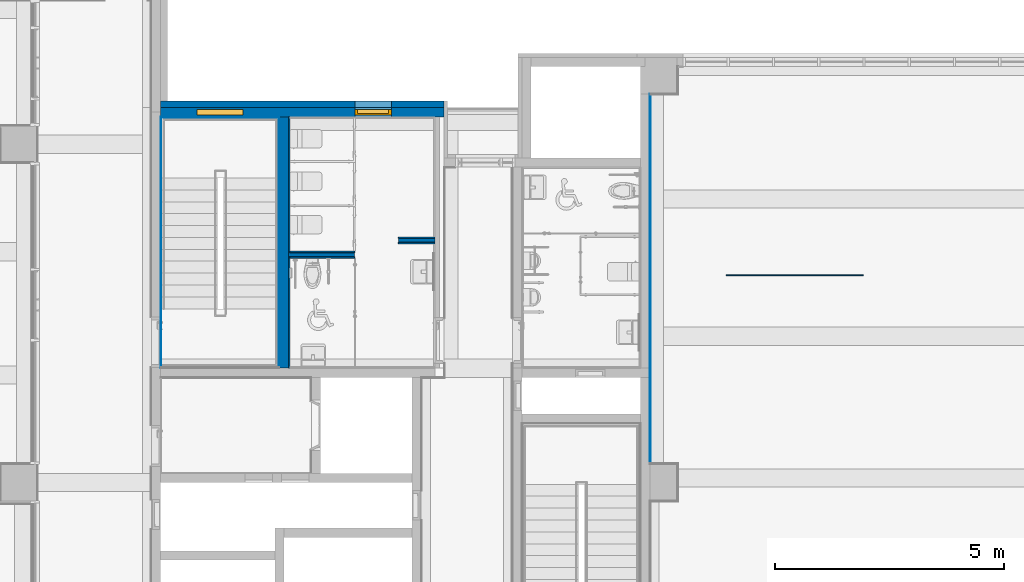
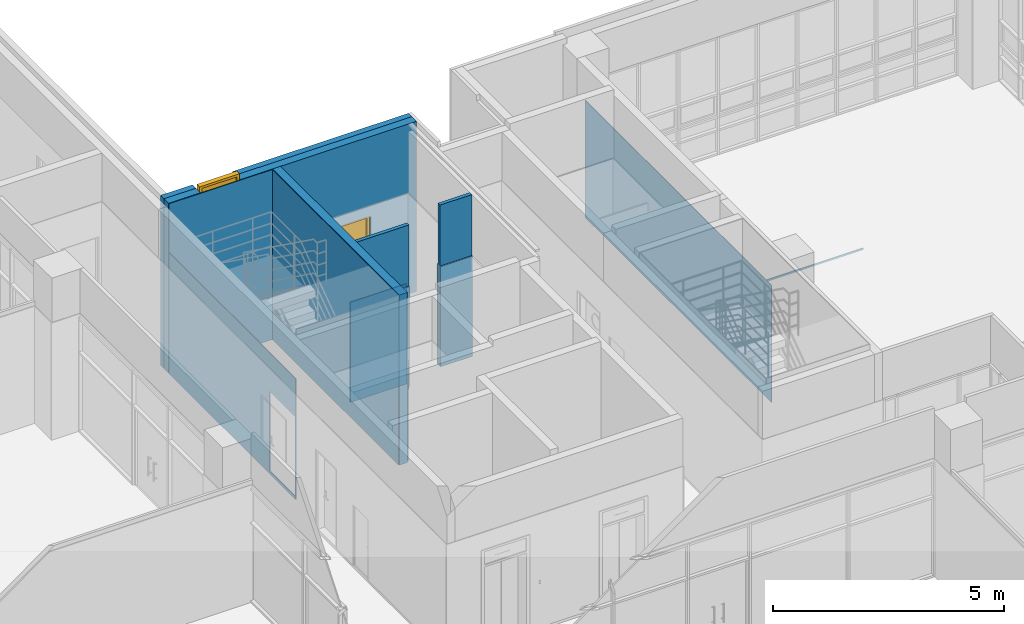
# One storey, part 57 of 74: 15 walls, 2 windows, 7 openings.
"""IFC2X3 building model written with IfcOpenShell, lengths in millimetres."""

from ifc_helpers import new_model, entity, si_unit, converted_unit, derived_unit, direction, frame, frame_2d, origin, place, context, subcontext, project, spatial, rectangle, extrude, faceted_brep, source, transform, mapped, material, material_list, layer, layer_set, layer_usage, type_object, type_shapes, element, fill, save


model = new_model("IFC2X3")

# Units and contexts
model_context = context("Model", 3, precision=0.01, world=origin(), true_north=direction((6.123031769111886e-17, 1.0)))
body_context = subcontext(model_context, "Body", "Model", "MODEL_VIEW")
ifc_project = project(units=[si_unit("LENGTHUNIT", "METRE", prefix="MILLI"), si_unit("AREAUNIT", "SQUARE_METRE"), si_unit("VOLUMEUNIT", "CUBIC_METRE"), converted_unit("PLANEANGLEUNIT", "DEGREE", entity("IfcRatioMeasure", 0.017453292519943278), si_unit("PLANEANGLEUNIT", "RADIAN"), dimensions=[0, 0, 0, 0, 0, 0, 0]), si_unit("MASSUNIT", "GRAM", prefix="KILO"), derived_unit("MASSDENSITYUNIT", [(si_unit("MASSUNIT", "GRAM", prefix="KILO"), 1), (si_unit("LENGTHUNIT", "METRE"), -3)]), derived_unit("MOMENTOFINERTIAUNIT", [(si_unit("LENGTHUNIT", "METRE"), 4)]), si_unit("TIMEUNIT", "SECOND"), si_unit("FREQUENCYUNIT", "HERTZ"), si_unit("THERMODYNAMICTEMPERATUREUNIT", "DEGREE_CELSIUS"), derived_unit("THERMALTRANSMITTANCEUNIT", [(si_unit("MASSUNIT", "GRAM", prefix="KILO"), 1), (si_unit("THERMODYNAMICTEMPERATUREUNIT", "KELVIN"), -1), (si_unit("TIMEUNIT", "SECOND"), -3)]), derived_unit("VOLUMETRICFLOWRATEUNIT", [(si_unit("LENGTHUNIT", "METRE"), 3), (si_unit("TIMEUNIT", "SECOND"), -1)]), derived_unit("MASSFLOWRATEUNIT", [(si_unit("MASSUNIT", "GRAM", prefix="KILO"), 1), (si_unit("TIMEUNIT", "SECOND"), -1)]), derived_unit("ROTATIONALFREQUENCYUNIT", [(si_unit("TIMEUNIT", "SECOND"), -1)]), si_unit("ELECTRICCURRENTUNIT", "AMPERE"), si_unit("ELECTRICVOLTAGEUNIT", "VOLT"), si_unit("POWERUNIT", "WATT"), si_unit("FORCEUNIT", "NEWTON", prefix="KILO"), si_unit("ILLUMINANCEUNIT", "LUX"), si_unit("LUMINOUSFLUXUNIT", "LUMEN"), si_unit("LUMINOUSINTENSITYUNIT", "CANDELA"), derived_unit("USERDEFINED", [(si_unit("MASSUNIT", "GRAM", prefix="KILO"), -1), (si_unit("LENGTHUNIT", "METRE"), -2), (si_unit("TIMEUNIT", "SECOND"), 3), (si_unit("LUMINOUSFLUXUNIT", "LUMEN"), 1)]), derived_unit("SOUNDPOWERUNIT", [(si_unit("MASSUNIT", "GRAM", prefix="KILO"), 1), (si_unit("LENGTHUNIT", "METRE"), 2), (si_unit("TIMEUNIT", "SECOND"), -3)]), derived_unit("SOUNDPRESSUREUNIT", [(si_unit("MASSUNIT", "GRAM", prefix="KILO"), 1), (si_unit("LENGTHUNIT", "METRE"), -1), (si_unit("TIMEUNIT", "SECOND"), -2)]), derived_unit("LINEARVELOCITYUNIT", [(si_unit("LENGTHUNIT", "METRE"), 1), (si_unit("TIMEUNIT", "SECOND"), -1)]), si_unit("PRESSUREUNIT", "PASCAL"), derived_unit("USERDEFINED", [(si_unit("LENGTHUNIT", "METRE"), -2), (si_unit("MASSUNIT", "GRAM", prefix="KILO"), 1), (si_unit("TIMEUNIT", "SECOND"), -2)]), derived_unit("LINEARFORCEUNIT", [(si_unit("MASSUNIT", "GRAM", prefix="KILO"), 1), (si_unit("LENGTHUNIT", "METRE"), 1), (si_unit("TIMEUNIT", "SECOND"), -2), (si_unit("LENGTHUNIT", "METRE"), -1)]), derived_unit("PLANARFORCEUNIT", [(si_unit("MASSUNIT", "GRAM", prefix="KILO"), 1), (si_unit("LENGTHUNIT", "METRE"), 1), (si_unit("TIMEUNIT", "SECOND"), -2), (si_unit("LENGTHUNIT", "METRE"), -2)])], contexts=[model_context])

# Site, building, storey
site_placement = place(None, frame((-14167.972527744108, -657.2125860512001, 0.0)))
site = spatial("IfcSite", under=ifc_project, at=site_placement, Name="Default", CompositionType="ELEMENT")
building_placement = place(site_placement, origin())
building = spatial("IfcBuilding", under=site, at=building_placement, Name="Sample Building", CompositionType="ELEMENT")
storey_placement = place(building_placement, frame((0.0, 0.0, 4800.0)))
storey = spatial("IfcBuildingStorey", under=building, at=storey_placement, Name="지상 2층", CompositionType="ELEMENT", Elevation=4800.000000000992)

# Wall, openings, windows
ifc_material_1 = material(Name="KBIMS-콘크리트")
ifc_layer_1 = layer(ifc_material_1, 200.0)
ifc_layer_set_1 = layer_set([ifc_layer_1], Name="기본 벽:WA111-철근콘크리트구조 벽 200mm_CW1")
ifc_layer_usage_1 = layer_usage(ifc_layer_set_1, "AXIS2", "NEGATIVE", 100.0)
wall_type_1 = type_object("IfcWallType", Name="기본 벽:WA111-철근콘크리트구조 벽 200mm_CW1", PredefinedType="STANDARD", material=ifc_layer_set_1)
wall_1_placement = place(storey_placement, frame((30267.963761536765, 28057.212307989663, -1.9340006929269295e-09)))
wall_1 = element("IfcWallStandardCase", 1, at=wall_1_placement, inside=storey, type_object=wall_type_1, material=ifc_layer_usage_1, Name="기본 벽:WA111-철근콘크리트구조 벽 200mm_CW1", ObjectType="기본 벽:WA111-철근콘크리트구조 벽 200mm_CW1", context=body_context, shape_type="SweptSolid", body=[
    extrude(rectangle(XDim=6200.0000366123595, YDim=199.99999999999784, at=frame_2d((3100.0000183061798, 0.0), x_axis=(1.0, 0.0))), origin(), (0.0, 0.0, 1.0), 4500.000000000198),
])
opening_1_placement = place(wall_1_placement, origin())
element("IfcOpeningElement", 2, at=opening_1_placement, cuts=wall_1, Name="기본 벽:WA111-철근콘크리트구조 벽 200mm_CW1", ObjectType="Opening", context=body_context, shape_type="SweptSolid", body=[
    extrude(rectangle(XDim=1600.0000000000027, YDim=999.999999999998, at=frame_2d((-2.8421709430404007e-13, 0.0), x_axis=(1.0, 0.0))), frame((1299.0853912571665, -1624.0, -400.0), z_axis=(0.0, 1.0, 0.0), x_axis=(0.0, 0.0, 1.0)), (0.0, 0.0, 1.0), 3048.0),
])
opening_2_placement = place(wall_1_placement, frame((799.0853912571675, -100.0, 3030.0)))
opening_2 = element("IfcOpeningElement", 3, at=opening_2_placement, cuts=wall_1, Name="WD812-미들창(스테인리스 스틸):WD812-미들창(스테인리스 스틸) 하부개폐 1000x1600mm:1", ObjectType="Opening", context=body_context, shape_type="SweptSolid", body=[
    extrude(rectangle(XDim=1600.0000000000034, YDim=999.9999999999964, at=frame_2d((800.0000000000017, 499.9999999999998), x_axis=(1.0, 0.0))), frame((0.0, 0.0, 0.0), z_axis=(0.0, 1.0, 0.0), x_axis=(0.0, 0.0, 1.0)), (0.0, 0.0, 1.0), 200.0),
])
opening_3_placement = place(wall_1_placement, frame((5050.008729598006, 100.0, 1200.0)))
opening_3 = element("IfcOpeningElement", 4, at=opening_3_placement, cuts=wall_1, Name="WD812-미들창(스테인리스 스틸):WD812-미들창(스테인리스 스틸) 하부개폐 800x1200mm:1", ObjectType="Opening", context=body_context, shape_type="SweptSolid", body=[
    extrude(rectangle(XDim=1200.000000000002, YDim=799.9999999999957, at=frame_2d((600.0000000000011, 399.99999999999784), x_axis=(1.0, 0.0))), frame((0.0, 0.0, 0.0), z_axis=(0.0, -1.0, 0.0), x_axis=(0.0, 0.0, 1.0)), (0.0, 0.0, 1.0), 200.0),
])
ifc_material_2 = material(Name="KBIMS-스테인리스 스틸")
ifc_material_3 = material(Name="KBIMS-유리")
ifc_material_list_1 = material_list([ifc_material_2, ifc_material_3])
ifc_material_list_2 = material_list([ifc_material_2, ifc_material_3, ifc_material_2, ifc_material_2, ifc_material_3])
window_style_1 = type_object("IfcWindowStyle", Name="WD812-미들창(스테인리스 스틸):WD812-미들창(스테인리스 스틸) 하부개폐 1000x1600mm", ConstructionType="NOTDEFINED", OperationType="NOTDEFINED", ParameterTakesPrecedence=False, Sizeable=False, material=ifc_material_list_2)
shared_shape_1 = source(origin(), body_context, "Body", "Brep", [
    faceted_brep([(60.0, 40.0, 540.0), (60.0, 160.0, 540.0), (940.0, 160.0, 540.0), (940.0, 40.0, 540.0), (0.0, 160.0, 600.0), (0.0, 40.0, 600.0), (60.0, 40.0, 600.0), (940.0, 40.0, 600.0), (1000.0, 40.0, 600.0), (1000.0, 160.0, 600.0), (940.0, 160.0, 600.0), (60.0, 160.0, 600.0), (940.0, 160.0, 60.0), (940.0, 40.0, 60.0), (1000.0, 40.0, 0.0), (1000.0, 160.0, 0.0), (60.0, 160.0, 60.0), (60.0, 40.0, 60.0), (0.0, 40.0, 0.0), (0.0, 160.0, 0.0)], [[[0, 1, 2, 3]], [[4, 5, 6, 7, 8, 9, 10, 11]], [[3, 2, 12, 13]], [[9, 8, 14, 15]], [[13, 12, 16, 17]], [[15, 14, 18, 19]], [[17, 16, 1, 0]], [[3, 13, 17, 0], [5, 18, 14, 8, 7, 6]], [[19, 18, 5, 4]], [[1, 16, 12, 2], [9, 15, 19, 4, 11, 10]]], outer=[[True], [True], [True], [True], [True], [True], [True], [False, True], [True], [False, True]]),
    faceted_brep([(900.0, 151.0, 500.0), (100.0, 151.0, 500.0), (100.0, 139.0, 500.0), (900.0, 139.0, 500.0), (900.0, 151.0, 100.0), (900.0, 139.0, 100.0), (100.0, 139.0, 100.0), (100.0, 151.0, 100.0)], [[[0, 1, 2, 3]], [[4, 5, 6, 7]], [[1, 0, 4, 7]], [[2, 1, 7, 6]], [[3, 2, 6, 5]], [[0, 3, 5, 4]]]),
    faceted_brep([(890.0, 130.0, 490.0), (890.0, 130.0, 110.0), (110.0, 130.0, 110.0), (110.0, 130.0, 490.0), (60.0, 130.0, 540.0), (60.0, 130.0, 60.0), (940.0, 130.0, 60.0), (940.0, 130.0, 540.0), (110.0, 139.0, 110.0), (110.0, 139.0, 490.0), (900.0, 139.0, 500.0), (900.0, 139.0, 100.0), (100.0, 139.0, 100.0), (100.0, 139.0, 500.0), (890.0, 139.0, 110.0), (890.0, 139.0, 490.0), (100.0, 151.0, 100.0), (100.0, 151.0, 500.0), (890.0, 151.0, 490.0), (890.0, 151.0, 110.0), (110.0, 151.0, 110.0), (110.0, 151.0, 490.0), (900.0, 151.0, 100.0), (900.0, 151.0, 500.0), (110.0, 160.0, 110.0), (110.0, 160.0, 490.0), (940.0, 160.0, 60.0), (60.0, 160.0, 60.0), (890.0, 160.0, 490.0), (60.0, 160.0, 540.0), (940.0, 160.0, 540.0), (890.0, 160.0, 110.0)], [[[0, 1, 2, 3], [4, 5, 6, 7]], [[2, 8, 9, 3]], [[10, 11, 12, 13], [9, 8, 14, 15]], [[12, 16, 17, 13]], [[18, 19, 20, 21], [17, 16, 22, 23]], [[20, 24, 25, 21]], [[26, 6, 5, 27]], [[21, 25, 28, 18]], [[13, 17, 23, 10]], [[3, 9, 15, 0]], [[29, 4, 7, 30]], [[18, 28, 31, 19]], [[10, 23, 22, 11]], [[0, 15, 14, 1]], [[30, 7, 6, 26]], [[19, 31, 24, 20]], [[11, 22, 16, 12]], [[1, 14, 8, 2]], [[27, 5, 4, 29]], [[25, 24, 31, 28], [30, 26, 27, 29]]], outer=[[False, True], [True], [True, False], [True], [False, True], [True], [True], [True], [True], [True], [True], [True], [True], [True], [True], [True], [True], [True], [True], [False, True]]),
    faceted_brep([(60.0, 160.0, 600.0), (60.0, 40.0, 600.0), (0.0, 40.0, 600.0), (0.0, 160.0, 600.0), (60.0, 40.0, 1540.0), (60.0, 160.0, 1540.0), (940.0, 160.0, 1540.0), (940.0, 40.0, 1540.0), (0.0, 160.0, 1600.0), (0.0, 40.0, 1600.0), (1000.0, 40.0, 1600.0), (1000.0, 160.0, 1600.0), (940.0, 160.0, 600.0), (940.0, 40.0, 600.0), (1000.0, 40.0, 600.0), (1000.0, 160.0, 600.0)], [[[0, 1, 2, 3]], [[4, 5, 6, 7]], [[8, 9, 10, 11]], [[7, 6, 12, 13]], [[11, 10, 14, 15]], [[12, 15, 14, 13]], [[1, 0, 5, 4]], [[2, 1, 4, 7, 13, 14, 10, 9]], [[3, 2, 9, 8]], [[0, 3, 8, 11, 15, 12, 6, 5]]]),
    faceted_brep([(940.0, 106.0, 1540.0), (60.0, 106.0, 1540.0), (60.0, 94.0, 1540.0), (940.0, 94.0, 1540.0), (940.0, 106.0, 600.0), (940.0, 94.0, 600.0), (60.0, 94.0, 600.0), (60.0, 106.0, 600.0)], [[[0, 1, 2, 3]], [[4, 5, 6, 7]], [[1, 0, 4, 7]], [[2, 1, 7, 6]], [[3, 2, 6, 5]], [[0, 3, 5, 4]]]),
])
type_shapes(window_style_1, [shared_shape_1])
window_1_placement = place(opening_2_placement, frame((0.0, 0.0, 1.9335857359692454e-09)))
window_1 = element("IfcWindow", 5, at=window_1_placement, inside=storey, type_object=window_style_1, material=ifc_material_list_1, Name="WD812-미들창(스테인리스 스틸):WD812-미들창(스테인리스 스틸) 하부개폐 1000x1600mm", ObjectType="WD812-미들창(스테인리스 스틸):WD812-미들창(스테인리스 스틸) 하부개폐 1000x1600mm", OverallHeight=1600.0000000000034, OverallWidth=999.999999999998, context=body_context, shape_type="MappedRepresentation", body=[
    mapped(shared_shape_1, transform((0.0, 0.0, 0.0), scale=1.0)),
])
fill(opening_2, window_1)
ifc_material_list_3 = material_list([ifc_material_2, ifc_material_3])
ifc_material_list_4 = material_list([ifc_material_2, ifc_material_3, ifc_material_2, ifc_material_2, ifc_material_3])
window_style_2 = type_object("IfcWindowStyle", Name="WD812-미들창(스테인리스 스틸):WD812-미들창(스테인리스 스틸) 하부개폐 800x1200mm", ConstructionType="NOTDEFINED", OperationType="NOTDEFINED", ParameterTakesPrecedence=False, Sizeable=False, material=ifc_material_list_4)
shared_shape_2 = source(origin(), body_context, "Body", "Brep", [
    faceted_brep([(60.0, 40.0, 540.0), (60.0, 160.0, 540.0), (740.0, 160.0, 540.0), (740.0, 40.0, 540.0), (0.0, 160.0, 600.0), (0.0, 40.0, 600.0), (60.0, 40.0, 600.0), (740.0, 40.0, 600.0), (800.0, 40.0, 600.0), (800.0, 160.0, 600.0), (740.0, 160.0, 600.0), (60.0, 160.0, 600.0), (740.0, 160.0, 60.0), (740.0, 40.0, 60.0), (800.0, 40.0, 0.0), (800.0, 160.0, 0.0), (60.0, 160.0, 60.0), (60.0, 40.0, 60.0), (0.0, 40.0, 0.0), (0.0, 160.0, 0.0)], [[[0, 1, 2, 3]], [[4, 5, 6, 7, 8, 9, 10, 11]], [[3, 2, 12, 13]], [[9, 8, 14, 15]], [[13, 12, 16, 17]], [[15, 14, 18, 19]], [[17, 16, 1, 0]], [[3, 13, 17, 0], [5, 18, 14, 8, 7, 6]], [[19, 18, 5, 4]], [[1, 16, 12, 2], [9, 15, 19, 4, 11, 10]]], outer=[[True], [True], [True], [True], [True], [True], [True], [False, True], [True], [False, True]]),
    faceted_brep([(700.0, 151.0, 500.0), (100.0, 151.0, 500.0), (100.0, 139.0, 500.0), (700.0, 139.0, 500.0), (700.0, 151.0, 100.0), (700.0, 139.0, 100.0), (100.0, 139.0, 100.0), (100.0, 151.0, 100.0)], [[[0, 1, 2, 3]], [[4, 5, 6, 7]], [[1, 0, 4, 7]], [[2, 1, 7, 6]], [[3, 2, 6, 5]], [[0, 3, 5, 4]]]),
    faceted_brep([(690.0, 130.0, 490.0), (690.0, 130.0, 110.0), (110.0, 130.0, 110.0), (110.0, 130.0, 490.0), (60.0, 130.0, 540.0), (60.0, 130.0, 60.0), (740.0, 130.0, 60.0), (740.0, 130.0, 540.0), (110.0, 139.0, 110.0), (110.0, 139.0, 490.0), (700.0, 139.0, 500.0), (700.0, 139.0, 100.0), (100.0, 139.0, 100.0), (100.0, 139.0, 500.0), (690.0, 139.0, 110.0), (690.0, 139.0, 490.0), (100.0, 151.0, 100.0), (100.0, 151.0, 500.0), (690.0, 151.0, 490.0), (690.0, 151.0, 110.0), (110.0, 151.0, 110.0), (110.0, 151.0, 490.0), (700.0, 151.0, 100.0), (700.0, 151.0, 500.0), (110.0, 160.0, 110.0), (110.0, 160.0, 490.0), (740.0, 160.0, 60.0), (60.0, 160.0, 60.0), (690.0, 160.0, 490.0), (60.0, 160.0, 540.0), (740.0, 160.0, 540.0), (690.0, 160.0, 110.0)], [[[0, 1, 2, 3], [4, 5, 6, 7]], [[2, 8, 9, 3]], [[10, 11, 12, 13], [9, 8, 14, 15]], [[12, 16, 17, 13]], [[18, 19, 20, 21], [17, 16, 22, 23]], [[20, 24, 25, 21]], [[26, 6, 5, 27]], [[21, 25, 28, 18]], [[13, 17, 23, 10]], [[3, 9, 15, 0]], [[29, 4, 7, 30]], [[18, 28, 31, 19]], [[10, 23, 22, 11]], [[0, 15, 14, 1]], [[30, 7, 6, 26]], [[19, 31, 24, 20]], [[11, 22, 16, 12]], [[1, 14, 8, 2]], [[27, 5, 4, 29]], [[25, 24, 31, 28], [30, 26, 27, 29]]], outer=[[False, True], [True], [True, False], [True], [False, True], [True], [True], [True], [True], [True], [True], [True], [True], [True], [True], [True], [True], [True], [True], [False, True]]),
    faceted_brep([(60.0, 160.0, 600.0), (60.0, 40.0, 600.0), (0.0, 40.0, 600.0), (0.0, 160.0, 600.0), (60.0, 40.0, 1140.0), (60.0, 160.0, 1140.0), (740.0, 160.0, 1140.0), (740.0, 40.0, 1140.0), (0.0, 160.0, 1200.0), (0.0, 40.0, 1200.0), (800.0, 40.0, 1200.0), (800.0, 160.0, 1200.0), (740.0, 160.0, 600.0), (740.0, 40.0, 600.0), (800.0, 40.0, 600.0), (800.0, 160.0, 600.0)], [[[0, 1, 2, 3]], [[4, 5, 6, 7]], [[8, 9, 10, 11]], [[7, 6, 12, 13]], [[11, 10, 14, 15]], [[12, 15, 14, 13]], [[1, 0, 5, 4]], [[2, 1, 4, 7, 13, 14, 10, 9]], [[3, 2, 9, 8]], [[0, 3, 8, 11, 15, 12, 6, 5]]]),
    faceted_brep([(740.0, 106.0, 1140.0), (60.0, 106.0, 1140.0), (60.0, 94.0, 1140.0), (740.0, 94.0, 1140.0), (740.0, 106.0, 600.0), (740.0, 94.0, 600.0), (60.0, 94.0, 600.0), (60.0, 106.0, 600.0)], [[[0, 1, 2, 3]], [[4, 5, 6, 7]], [[1, 0, 4, 7]], [[2, 1, 7, 6]], [[3, 2, 6, 5]], [[0, 3, 5, 4]]]),
])
type_shapes(window_style_2, [shared_shape_2])
window_2_placement = place(opening_3_placement, frame((0.0, 0.0, 1.9335857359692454e-09), z_axis=(0.0, 0.0, 1.0), x_axis=(-1.0, 0.0, 0.0)))
window_2 = element("IfcWindow", 6, at=window_2_placement, inside=storey, type_object=window_style_2, material=ifc_material_list_3, Name="WD812-미들창(스테인리스 스틸):WD812-미들창(스테인리스 스틸) 하부개폐 800x1200mm", ObjectType="WD812-미들창(스테인리스 스틸):WD812-미들창(스테인리스 스틸) 하부개폐 800x1200mm", OverallHeight=1200.0000000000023, OverallWidth=799.9999999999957, context=body_context, shape_type="MappedRepresentation", body=[
    mapped(shared_shape_2, transform((0.0, 0.0, 0.0), scale=1.0)),
])
fill(opening_3, window_2)

# Wall
ifc_layer_usage_2 = layer_usage(ifc_layer_set_1, "AXIS2", "NEGATIVE", 100.0)
wall_2_placement = place(storey_placement, frame((32967.97249113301, 27957.212307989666, -1.9340006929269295e-09), z_axis=(0.0, 0.0, 1.0), x_axis=(0.0, -1.0, 0.0)))
element("IfcWallStandardCase", 7, at=wall_2_placement, inside=storey, type_object=wall_type_1, material=ifc_layer_usage_2, Name="기본 벽:WA111-철근콘크리트구조 벽 200mm_CW1", ObjectType="기본 벽:WA111-철근콘크리트구조 벽 200mm_CW1", context=body_context, shape_type="SweptSolid", body=[
    extrude(rectangle(XDim=5499.999996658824, YDim=199.99999999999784, at=frame_2d((2749.999998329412, -4.263256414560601e-14), x_axis=(-1.0, 0.0))), origin(), (0.0, 0.0, 1.0), 4500.000000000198),
])

# Wall, openings
ifc_material_4 = material(Name="WA240-ALC블록벽")
ifc_layer_2 = layer(ifc_material_4, 35.0)
ifc_material_5 = material(Name="WA795-(STEEL)BRACKET")
ifc_layer_3 = layer(ifc_material_5, 65.0)
ifc_material_6 = material(Name="WA821-압출스티로폼 벽 (본드붙임, 비중0.03) 50mm")
ifc_layer_4 = layer(ifc_material_6, 50.0)
ifc_layer_set_2 = layer_set([ifc_layer_2, ifc_layer_3, ifc_layer_4], Name="기본 벽:A2-22-02A-압출스티로폼, BRACKET(STEEL), ALC블록 (150mm)")
ifc_layer_usage_3 = layer_usage(ifc_layer_set_2, "AXIS2", "POSITIVE", -75.0)
wall_type_2 = type_object("IfcWallType", Name="기본 벽:A2-22-02A-압출스티로폼, BRACKET(STEEL), ALC블록 (150mm)", PredefinedType="STANDARD", material=ifc_layer_set_2)
wall_3_placement = place(storey_placement, frame((36467.963798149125, 28232.212307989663, -1.9340006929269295e-09), z_axis=(0.0, 0.0, 1.0), x_axis=(-1.0, 0.0, 0.0)))
wall_3 = element("IfcWallStandardCase", 8, at=wall_3_placement, inside=storey, type_object=wall_type_2, material=ifc_layer_usage_3, Name="기본 벽:A2-22-02A-압출스티로폼, BRACKET(STEEL), ALC블록 (150mm)", ObjectType="기본 벽:A2-22-02A-압출스티로폼, BRACKET(STEEL), ALC블록 (150mm)", context=body_context, shape_type="SweptSolid", body=[
    extrude(rectangle(XDim=6200.000036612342, YDim=150.00000000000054, at=frame_2d((3100.000018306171, 0.0), x_axis=(1.0, 0.0))), origin(), (0.0, 0.0, 1.0), 4500.000000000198),
])
opening_4_placement = place(wall_3_placement, origin())
element("IfcOpeningElement", 9, at=opening_4_placement, cuts=wall_3, Name="기본 벽:A2-22-02A-압출스티로폼, BRACKET(STEEL), ALC블록 (150mm)", ObjectType="Opening", context=body_context, shape_type="SweptSolid", body=[
    extrude(rectangle(XDim=1600.0000000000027, YDim=999.999999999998, at=frame_2d((0.0, 2.8421709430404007e-13), x_axis=(0.0, 1.0))), frame((4900.914645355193, -1249.0, -400.0), z_axis=(0.0, 1.0, 0.0), x_axis=(-1.0, 0.0, 0.0)), (0.0, 0.0, 1.0), 3048.0),
])
opening_5_placement = place(wall_3_placement, origin())
element("IfcOpeningElement", 10, at=opening_5_placement, cuts=wall_3, Name="기본 벽:A2-22-02A-압출스티로폼, BRACKET(STEEL), ALC블록 (150mm)", ObjectType="Opening", context=body_context, shape_type="SweptSolid", body=[
    extrude(rectangle(XDim=1600.0000000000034, YDim=999.999999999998, at=frame_2d((0.0, 5.684341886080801e-13), x_axis=(0.0, 1.0))), frame((4900.914645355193, -1249.0, 3830.0), z_axis=(0.0, 1.0, 0.0), x_axis=(-1.0, 0.0, 0.0)), (0.0, 0.0, 1.0), 3048.0),
])
opening_6_placement = place(wall_3_placement, origin())
element("IfcOpeningElement", 11, at=opening_6_placement, cuts=wall_3, Name="기본 벽:A2-22-02A-압출스티로폼, BRACKET(STEEL), ALC블록 (150mm)", ObjectType="Opening", context=body_context, shape_type="SweptSolid", body=[
    extrude(rectangle(XDim=1200.0000000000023, YDim=799.9999999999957, at=frame_2d((0.0, -2.1600499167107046e-12), x_axis=(1.0, 0.0))), frame((1549.991307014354, -1449.0, 1800.0), z_axis=(0.0, 1.0, 0.0), x_axis=(0.0, 0.0, 1.0)), (0.0, 0.0, 1.0), 3048.0),
])

# Walls
ifc_material_7 = material(Name="KBIMS-시멘트 벽돌")
ifc_layer_5 = layer(ifc_material_7, 90.0)
ifc_layer_set_3 = layer_set([ifc_layer_5], Name="기본 벽:WA211-시멘트벽돌(일반) 벽 (0.5B) 90mm")
ifc_layer_usage_4 = layer_usage(ifc_layer_set_3, "AXIS2", "NEGATIVE", 45.0)
wall_type_3 = type_object("IfcWallType", Name="기본 벽:WA211-시멘트벽돌(일반) 벽 (0.5B) 90mm", PredefinedType="STANDARD", material=ifc_layer_set_3)
wall_4_placement = place(storey_placement, frame((33067.972491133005, 24941.74389776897, -50.0)))
element("IfcWallStandardCase", 12, at=wall_4_placement, inside=storey, type_object=wall_type_3, material=ifc_layer_usage_4, Name="기본 벽:WA211-시멘트벽돌(일반) 벽 (0.5B) 90mm", ObjectType="기본 벽:WA211-시멘트벽돌(일반) 벽 (0.5B) 90mm", context=body_context, shape_type="SweptSolid", body=[
    extrude(rectangle(XDim=1444.991263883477, YDim=90.0000000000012, at=frame_2d((722.4956319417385, -2.3234747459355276e-12), x_axis=(-1.0, 0.0))), origin(), (0.0, 0.0, 1.0), 4350.000000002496),
])
ifc_layer_usage_5 = layer_usage(ifc_layer_set_3, "AXIS2", "NEGATIVE", 45.0)
wall_5_placement = place(storey_placement, frame((35467.9637981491, 25252.21230798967, 40.0)))
element("IfcWallStandardCase", 13, at=wall_5_placement, inside=storey, type_object=wall_type_3, material=ifc_layer_usage_5, Name="기본 벽:WA211-시멘트벽돌(일반) 벽 (0.5B) 90mm", ObjectType="기본 벽:WA211-시멘트벽돌(일반) 벽 (0.5B) 90mm", context=body_context, shape_type="SweptSolid", body=[
    extrude(rectangle(XDim=800.0000000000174, YDim=90.0000000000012, at=frame_2d((400.0000000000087, -2.8919089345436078e-12), x_axis=(-1.0, 0.0))), origin(), (0.0, 0.0, 1.0), 4260.000000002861),
])
ifc_material_8 = material(Name="KBIMS-목재 걸레받이 (라왕, 바니쉬)")
ifc_layer_6 = layer(ifc_material_8, 24.0)
ifc_layer_set_4 = layer_set([ifc_layer_6], Name="기본 벽:WA921-목재 걸레받이 (H45*24mm, 라왕, 바니쉬)")
ifc_layer_usage_6 = layer_usage(ifc_layer_set_4, "AXIS2", "NEGATIVE", 12.0)
wall_type_4 = type_object("IfcWallType", Name="기본 벽:WA921-목재 걸레받이 (H45*24mm, 라왕, 바니쉬)", PredefinedType="STANDARD", material=ifc_layer_set_4)
wall_6_placement = place(storey_placement, frame((42641.01828586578, 24490.95405684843, 0.0)))
element("IfcWallStandardCase", 14, at=wall_6_placement, inside=storey, type_object=wall_type_4, material=ifc_layer_usage_6, Name="기본 벽:WA921-목재 걸레받이 (H45*24mm, 라왕, 바니쉬)", ObjectType="기본 벽:WA921-목재 걸레받이 (H45*24mm, 라왕, 바니쉬)", context=body_context, shape_type="SweptSolid", body=[
    extrude(rectangle(XDim=3000.0000000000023, YDim=23.999999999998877, at=frame_2d((1500.0000000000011, 2.568611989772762e-12), x_axis=(-1.0, 0.0))), origin(), (0.0, 0.0, 1.0), 45.0000000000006),
])
ifc_material_9 = material(Name="WA611-수성페인트 (내부) 벽 (3회)")
ifc_layer_7 = layer(ifc_material_9, 1.0)
ifc_material_10 = material(Name="WA551-시멘트모르타르 (내부) 벽 18mm")
ifc_layer_8 = layer(ifc_material_10, 16.0)
ifc_material_11 = material(Name="WA555-콘크리트면정리 벽 (내부)")
ifc_layer_9 = layer(ifc_material_11, 1.0)
ifc_layer_set_5 = layer_set([ifc_layer_7, ifc_layer_8, ifc_layer_9], Name="기본 벽:A1-32-06A-콘크리트면정리, 시멘트모르타르(미장용), 수성페인트(내부) (18mm)")
ifc_layer_usage_7 = layer_usage(ifc_layer_set_5, "AXIS2", "POSITIVE", -9.000000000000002)
wall_type_5 = type_object("IfcWallType", Name="기본 벽:A1-32-06A-콘크리트면정리, 시멘트모르타르(미장용), 수성페인트(내부) (18mm)", PredefinedType="STANDARD", material=ifc_layer_set_5)
wall_7_placement = place(storey_placement, frame((30267.963761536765, 27948.212307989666, 0.0)))
element("IfcWallStandardCase", 15, at=wall_7_placement, inside=storey, type_object=wall_type_5, material=ifc_layer_usage_7, Name="기본 벽:A1-32-06A-콘크리트면정리, 시멘트모르타르(미장용), 수성페인트(내부) (18mm)", ObjectType="기본 벽:A1-32-06A-콘크리트면정리, 시멘트모르타르(미장용), 수성페인트(내부) (18mm)", context=body_context, shape_type="SweptSolid", body=[
    extrude(rectangle(XDim=2582.008729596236, YDim=18.00000000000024, at=frame_2d((1291.004364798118, -2.1662671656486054e-12), x_axis=(-1.0, 0.0))), origin(), (0.0, 0.0, 1.0), 4500.000000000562),
])

# Wall, opening
ifc_layer_usage_8 = layer_usage(ifc_layer_set_5, "AXIS2", "POSITIVE", -9.000000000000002)
wall_8_placement = place(storey_placement, frame((30276.963761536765, 22457.21231133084, 0.0), z_axis=(0.0, 0.0, 1.0), x_axis=(0.0, 1.0, 0.0)))
wall_8 = element("IfcWallStandardCase", 16, at=wall_8_placement, inside=storey, type_object=wall_type_5, material=ifc_layer_usage_8, Name="기본 벽:A1-32-06A-콘크리트면정리, 시멘트모르타르(미장용), 수성페인트(내부) (18mm)", ObjectType="기본 벽:A1-32-06A-콘크리트면정리, 시멘트모르타르(미장용), 수성페인트(내부) (18mm)", context=body_context, shape_type="SweptSolid", body=[
    extrude(rectangle(XDim=5481.999996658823, YDim=18.00000000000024, at=frame_2d((2740.9999983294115, -2.1662671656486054e-12), x_axis=(-1.0, 0.0))), origin(), (0.0, 0.0, 1.0), 3200.0),
])
opening_7_placement = place(wall_8_placement, origin())
element("IfcOpeningElement", 17, at=opening_7_placement, cuts=wall_8, Name="기본 벽:A1-32-06A-콘크리트면정리, 시멘트모르타르(미장용), 수성페인트(내부) (18mm)", ObjectType="Opening", context=body_context, shape_type="SweptSolid", body=[
    extrude(rectangle(XDim=2099.9999999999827, YDim=1100.0000000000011, at=frame_2d((-5.684341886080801e-13, 0.0), x_axis=(1.0, 0.0))), frame((569.9653164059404, -1315.0, 1130.0), z_axis=(0.0, 1.0, 0.0), x_axis=(0.0, 0.0, 1.0)), (0.0, 0.0, 1.0), 3048.0),
])

# Walls
ifc_layer_usage_9 = layer_usage(ifc_layer_set_5, "AXIS2", "POSITIVE", -9.000000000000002)
wall_9_placement = place(storey_placement, frame((32858.972491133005, 27957.212307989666, 0.0), z_axis=(0.0, 0.0, 1.0), x_axis=(0.0, -1.0, 0.0)))
element("IfcWallStandardCase", 18, at=wall_9_placement, inside=storey, type_object=wall_type_5, material=ifc_layer_usage_9, Name="기본 벽:A1-32-06A-콘크리트면정리, 시멘트모르타르(미장용), 수성페인트(내부) (18mm)", ObjectType="기본 벽:A1-32-06A-콘크리트면정리, 시멘트모르타르(미장용), 수성페인트(내부) (18mm)", context=body_context, shape_type="SweptSolid", body=[
    extrude(rectangle(XDim=5481.999996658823, YDim=18.00000000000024, at=frame_2d((2740.9999983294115, -2.1662671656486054e-12), x_axis=(-1.0, 0.0))), origin(), (0.0, 0.0, 1.0), 4500.000000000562),
])
ifc_layer_usage_10 = layer_usage(ifc_layer_set_5, "AXIS2", "POSITIVE", -9.000000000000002)
wall_10_placement = place(storey_placement, frame((40976.96379814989, 20375.212307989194, 80.0), z_axis=(0.0, 0.0, 1.0), x_axis=(0.0, 1.0, 0.0)))
element("IfcWallStandardCase", 19, at=wall_10_placement, inside=storey, type_object=wall_type_5, material=ifc_layer_usage_10, Name="기본 벽:A1-32-06A-콘크리트면정리, 시멘트모르타르(미장용), 수성페인트(내부) (18mm)", ObjectType="기본 벽:A1-32-06A-콘크리트면정리, 시멘트모르타르(미장용), 수성페인트(내부) (18mm)", context=body_context, shape_type="SweptSolid", body=[
    extrude(rectangle(XDim=8082.000000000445, YDim=18.00000000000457, at=frame_2d((4041.0000000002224, -1.318944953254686e-12), x_axis=(-1.0, 0.0))), origin(), (0.0, 0.0, 1.0), 3100.0000000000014),
])
ifc_material_12 = material(Name="WA352-도기질타일 벽 200x200")
ifc_layer_10 = layer(ifc_material_12, 8.0)
ifc_material_13 = material(Name="WA551-시멘트모르타르 (내부) 벽 22mm")
ifc_layer_11 = layer(ifc_material_13, 22.0)
ifc_layer_set_6 = layer_set([ifc_layer_10, ifc_layer_11], Name="기본 벽:A1-33-01B-시멘트 모르타르, 도기질타일 (30mm)")
ifc_layer_usage_11 = layer_usage(ifc_layer_set_6, "AXIS2", "NEGATIVE", 15.0)
wall_type_6 = type_object("IfcWallType", Name="기본 벽:A1-33-01B-시멘트 모르타르, 도기질타일 (30mm)", PredefinedType="STANDARD", material=ifc_layer_set_6)
wall_11_placement = place(storey_placement, frame((33082.98122724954, 22457.212311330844, 40.0), z_axis=(0.0, 0.0, 1.0), x_axis=(0.0, 1.0, 0.0)))
element("IfcWallStandardCase", 20, at=wall_11_placement, inside=storey, type_object=wall_type_6, material=ifc_layer_usage_11, Name="기본 벽:A1-33-01B-시멘트 모르타르, 도기질타일 (30mm)", ObjectType="기본 벽:A1-33-01B-시멘트 모르타르, 도기질타일 (30mm)", context=body_context, shape_type="SweptSolid", body=[
    extrude(rectangle(XDim=5499.999996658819, YDim=30.000000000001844, at=frame_2d((2749.9999983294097, -2.495781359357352e-13), x_axis=(-1.0, 0.0))), origin(), (0.0, 0.0, 1.0), 2649.9999999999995),
])
ifc_layer_usage_12 = layer_usage(ifc_layer_set_6, "AXIS2", "NEGATIVE", 15.0)
wall_12_placement = place(storey_placement, frame((33097.98122724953, 24881.743897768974, 40.0)))
element("IfcWallStandardCase", 21, at=wall_12_placement, inside=storey, type_object=wall_type_6, material=ifc_layer_usage_12, Name="기본 벽:A1-33-01B-시멘트 모르타르, 도기질타일 (30mm)", ObjectType="기본 벽:A1-33-01B-시멘트 모르타르, 도기질타일 (30mm)", context=body_context, shape_type="SweptSolid", body=[
    extrude(rectangle(XDim=1414.9825277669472, YDim=30.000000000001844, at=frame_2d((707.4912638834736, -8.970602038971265e-14), x_axis=(-1.0, 0.0))), origin(), (0.0, 0.0, 1.0), 2649.9999999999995),
])
ifc_layer_usage_13 = layer_usage(ifc_layer_set_6, "AXIS2", "POSITIVE", -15.0)
wall_13_placement = place(storey_placement, frame((33097.98122724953, 25001.74389776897, 40.0)))
element("IfcWallStandardCase", 22, at=wall_13_placement, inside=storey, type_object=wall_type_6, material=ifc_layer_usage_13, Name="기본 벽:A1-33-01B-시멘트 모르타르, 도기질타일 (30mm)", ObjectType="기본 벽:A1-33-01B-시멘트 모르타르, 도기질타일 (30mm)", context=body_context, shape_type="SweptSolid", body=[
    extrude(rectangle(XDim=1414.9825277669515, YDim=30.000000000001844, at=frame_2d((707.4912638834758, 0.0), x_axis=(-1.0, 0.0))), origin(), (0.0, 0.0, 1.0), 2649.9999999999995),
])
ifc_layer_usage_14 = layer_usage(ifc_layer_set_6, "AXIS2", "POSITIVE", -15.0)
wall_14_placement = place(storey_placement, frame((35467.98127038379, 25312.21230966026, 40.0)))
element("IfcWallStandardCase", 23, at=wall_14_placement, inside=storey, type_object=wall_type_6, material=ifc_layer_usage_14, Name="기본 벽:A1-33-01B-시멘트 모르타르, 도기질타일 (30mm)", ObjectType="기본 벽:A1-33-01B-시멘트 모르타르, 도기질타일 (30mm)", context=body_context, shape_type="SweptSolid", body=[
    extrude(rectangle(XDim=799.9825277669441, YDim=30.00000000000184, at=frame_2d((399.9912638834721, -9.405809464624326e-13), x_axis=(-1.0, 0.0))), origin(), (0.0, 0.0, 1.0), 2649.9999999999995),
])
ifc_layer_usage_15 = layer_usage(ifc_layer_set_6, "AXIS2", "NEGATIVE", 15.0)
wall_15_placement = place(storey_placement, frame((35467.98127038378, 25192.21230966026, 40.0)))
element("IfcWallStandardCase", 24, at=wall_15_placement, inside=storey, type_object=wall_type_6, material=ifc_layer_usage_15, Name="기본 벽:A1-33-01B-시멘트 모르타르, 도기질타일 (30mm)", ObjectType="기본 벽:A1-33-01B-시멘트 모르타르, 도기질타일 (30mm)", context=body_context, shape_type="SweptSolid", body=[
    extrude(rectangle(XDim=799.9825277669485, YDim=30.000000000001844, at=frame_2d((399.99126388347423, -9.920952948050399e-13), x_axis=(-1.0, 0.0))), origin(), (0.0, 0.0, 1.0), 2649.9999999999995),
])

save(model, "model.ifc")
